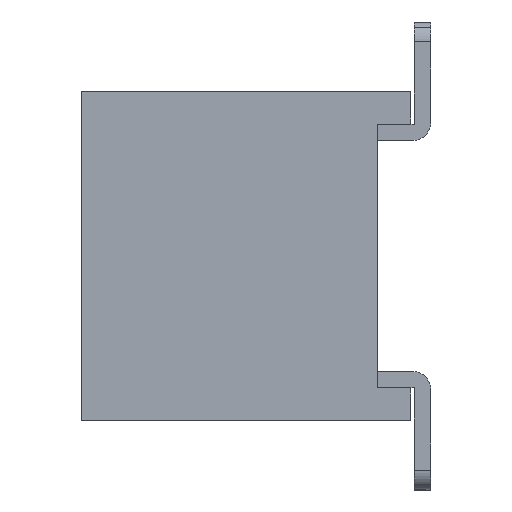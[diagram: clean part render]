
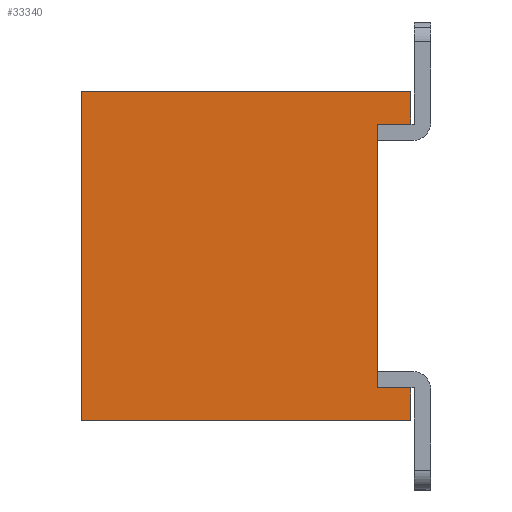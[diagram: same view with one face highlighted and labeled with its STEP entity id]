
A CAD part, left-side view. The second image highlights one B-rep face of the part: STEP entity #33340.
In plain terms, the highlighted planar face has unit normal (-1, 0, 0).
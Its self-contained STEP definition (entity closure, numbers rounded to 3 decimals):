
#431 = CARTESIAN_POINT ( 'NONE',  ( -34.29, 0., 0. ) ) ;
#1025 = CARTESIAN_POINT ( 'NONE',  ( -34.29, 4., -4.5 ) ) ;
#1178 = CARTESIAN_POINT ( 'NONE',  ( -34.29, 8.5, 0. ) ) ;
#1721 = VECTOR ( 'NONE', #29784, 1000. ) ;
#3787 = ORIENTED_EDGE ( 'NONE', *, *, #31935, .T. ) ;
#5272 = DIRECTION ( 'NONE',  ( 0., 1., 0. ) ) ;
#5949 = CARTESIAN_POINT ( 'NONE',  ( -34.29, 3.5, -5. ) ) ;
#6067 = CARTESIAN_POINT ( 'NONE',  ( -34.29, 4., -0.5 ) ) ;
#6543 = LINE ( 'NONE', #431, #34450 ) ;
#7068 = EDGE_CURVE ( 'NONE', #18235, #29543, #38433, .T. ) ;
#7563 = EDGE_CURVE ( 'NONE', #24442, #18235, #30299, .T. ) ;
#8680 = EDGE_CURVE ( 'NONE', #11367, #18718, #28544, .T. ) ;
#9185 = VERTEX_POINT ( 'NONE', #26672 ) ;
#9668 = FACE_OUTER_BOUND ( 'NONE', #14239, .T. ) ;
#9854 = VECTOR ( 'NONE', #24734, 1000. ) ;
#11187 = CARTESIAN_POINT ( 'NONE',  ( -34.29, 1.75, -0.5 ) ) ;
#11367 = VERTEX_POINT ( 'NONE', #18887 ) ;
#11802 = EDGE_CURVE ( 'NONE', #31683, #9185, #13634, .T. ) ;
#11842 = LINE ( 'NONE', #32740, #1721 ) ;
#13440 = CARTESIAN_POINT ( 'NONE',  ( -34.29, 1.75, -4.5 ) ) ;
#13614 = VECTOR ( 'NONE', #38079, 1000. ) ;
#13634 = LINE ( 'NONE', #13440, #13614 ) ;
#13686 = VERTEX_POINT ( 'NONE', #28937 ) ;
#14239 = EDGE_LOOP ( 'NONE', ( #20271, #3787, #36015, #30269, #33286, #31540, #15710, #31665 ) ) ;
#15710 = ORIENTED_EDGE ( 'NONE', *, *, #18383, .T. ) ;
#15783 = DIRECTION ( 'NONE',  ( -1., 0., 0. ) ) ;
#17325 = CARTESIAN_POINT ( 'NONE',  ( -34.29, 8.5, -5. ) ) ;
#18235 = VERTEX_POINT ( 'NONE', #29034 ) ;
#18383 = EDGE_CURVE ( 'NONE', #13686, #29543, #6543, .T. ) ;
#18541 = PLANE ( 'NONE',  #25629 ) ;
#18564 = DIRECTION ( 'NONE',  ( 0., 1., 0. ) ) ;
#18718 = VERTEX_POINT ( 'NONE', #6067 ) ;
#18887 = CARTESIAN_POINT ( 'NONE',  ( -34.29, 3.5, -0.5 ) ) ;
#19289 = VECTOR ( 'NONE', #22852, 1000. ) ;
#19384 = VECTOR ( 'NONE', #35608, 1000. ) ;
#20271 = ORIENTED_EDGE ( 'NONE', *, *, #7563, .F. ) ;
#21698 = CARTESIAN_POINT ( 'NONE',  ( -34.29, 0., -5. ) ) ;
#21779 = LINE ( 'NONE', #27709, #9854 ) ;
#22852 = DIRECTION ( 'NONE',  ( 0., 0., 1. ) ) ;
#24442 = VERTEX_POINT ( 'NONE', #36292 ) ;
#24734 = DIRECTION ( 'NONE',  ( 0., 0., -1. ) ) ;
#25629 = AXIS2_PLACEMENT_3D ( 'NONE', #21698, #15783, #34095 ) ;
#26103 = VECTOR ( 'NONE', #30765, 1000. ) ;
#26672 = CARTESIAN_POINT ( 'NONE',  ( -34.29, 3.5, -4.5 ) ) ;
#27709 = CARTESIAN_POINT ( 'NONE',  ( -34.29, 4., -5. ) ) ;
#28544 = LINE ( 'NONE', #11187, #28908 ) ;
#28908 = VECTOR ( 'NONE', #5272, 1000. ) ;
#28937 = CARTESIAN_POINT ( 'NONE',  ( -34.29, 3.5, 0. ) ) ;
#29034 = CARTESIAN_POINT ( 'NONE',  ( -34.29, 8.5, -5. ) ) ;
#29543 = VERTEX_POINT ( 'NONE', #1178 ) ;
#29784 = DIRECTION ( 'NONE',  ( 0., 0., 1. ) ) ;
#29901 = CARTESIAN_POINT ( 'NONE',  ( -34.29, 0., -5. ) ) ;
#30269 = ORIENTED_EDGE ( 'NONE', *, *, #31276, .F. ) ;
#30299 = LINE ( 'NONE', #29901, #19384 ) ;
#30765 = DIRECTION ( 'NONE',  ( 0., 0., 1. ) ) ;
#31276 = EDGE_CURVE ( 'NONE', #18718, #31683, #21779, .T. ) ;
#31540 = ORIENTED_EDGE ( 'NONE', *, *, #36228, .T. ) ;
#31665 = ORIENTED_EDGE ( 'NONE', *, *, #7068, .F. ) ;
#31683 = VERTEX_POINT ( 'NONE', #1025 ) ;
#31935 = EDGE_CURVE ( 'NONE', #24442, #9185, #11842, .T. ) ;
#32740 = CARTESIAN_POINT ( 'NONE',  ( -34.29, 3.5, -5. ) ) ;
#32944 = LINE ( 'NONE', #5949, #26103 ) ;
#33286 = ORIENTED_EDGE ( 'NONE', *, *, #8680, .F. ) ;
#33340 = ADVANCED_FACE ( 'NONE', ( #9668 ), #18541, .T. ) ;
#34095 = DIRECTION ( 'NONE',  ( 0., 0., 1. ) ) ;
#34450 = VECTOR ( 'NONE', #18564, 1000. ) ;
#35608 = DIRECTION ( 'NONE',  ( 0., 1., 0. ) ) ;
#36015 = ORIENTED_EDGE ( 'NONE', *, *, #11802, .F. ) ;
#36228 = EDGE_CURVE ( 'NONE', #11367, #13686, #32944, .T. ) ;
#36292 = CARTESIAN_POINT ( 'NONE',  ( -34.29, 3.5, -5. ) ) ;
#38079 = DIRECTION ( 'NONE',  ( 0., -1., 0. ) ) ;
#38433 = LINE ( 'NONE', #17325, #19289 ) ;
